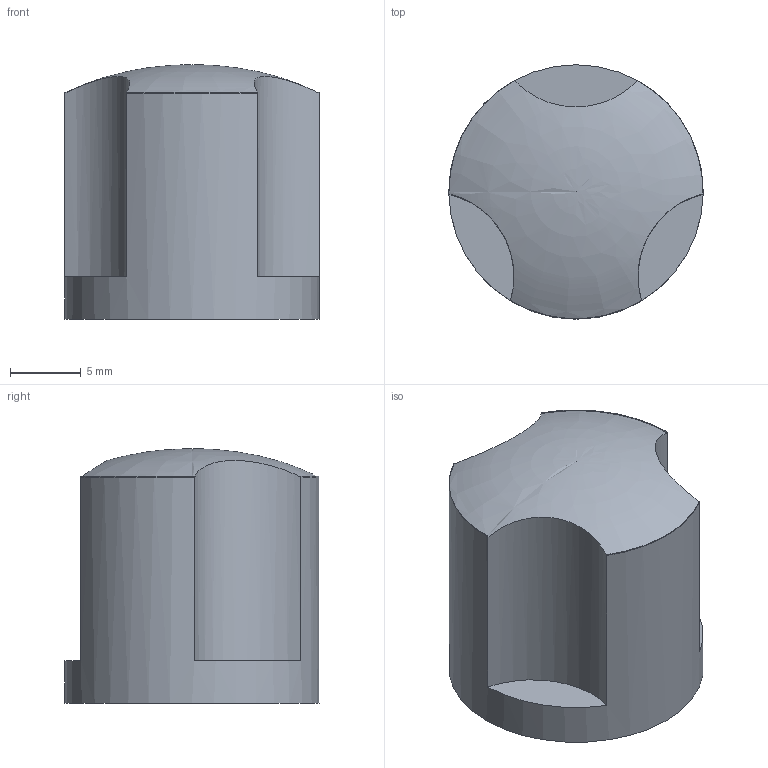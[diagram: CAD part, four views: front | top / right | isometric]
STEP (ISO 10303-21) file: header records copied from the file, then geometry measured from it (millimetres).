
FILE_DESCRIPTION(('FreeCAD Model'),'2;1');
FILE_NAME('E:/CAD Designs/Garmin/Final/CAD files/STEP/knob_3slot.step', '2021-02-27T12:58:35',('Author'),(''), 'Open CASCADE STEP processor 7.3','FreeCAD','Unknown');
FILE_SCHEMA(('AUTOMOTIVE_DESIGN { 1 0 10303 214 1 1 1 1 }'));
Length unit declared in the file: millimetre
Products named in the file (1): Body
Bounding box: 18 x 18 x 18 mm (x, y, z)
Volume: 3094.7 mm3; surface area: 1791 mm2
Topology: 1 solids, 1 shells, 18 faces, 44 edges, 29 vertices
Faces by surface type: plane 7, cylinder 6, cone 4, revolution 1
Full cylindrical faces by diameter (mm): 8 x1, 18 x1
Entity records: 1607 total; most frequent: CARTESIAN_POINT 737, DIRECTION 154, ORIENTED_EDGE 86, PCURVE 86, DEFINITIONAL_REPRESENTATION 86, LINE 70, VECTOR 70, EDGE_CURVE 43
